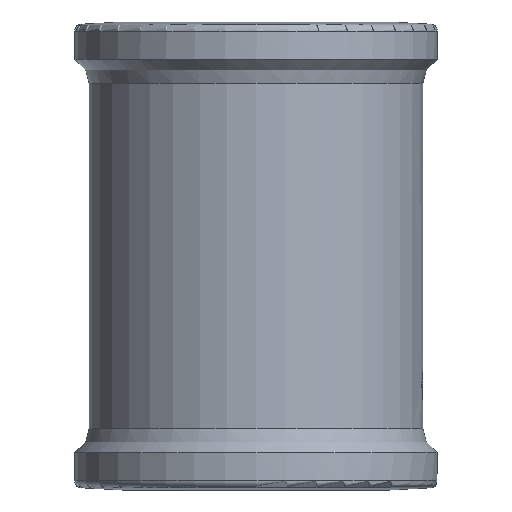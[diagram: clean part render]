
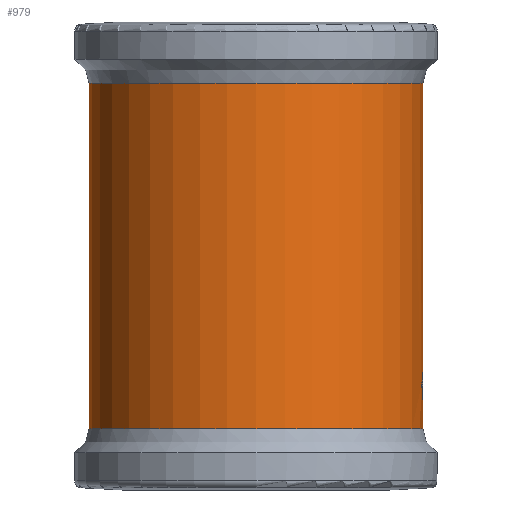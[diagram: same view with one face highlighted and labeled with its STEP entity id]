
A CAD part, left-side view. The second image highlights one B-rep face of the part: STEP entity #979.
In plain terms, the highlighted cylindrical face has radius 24.25 mm (diameter 48.5 mm), a partial arc.
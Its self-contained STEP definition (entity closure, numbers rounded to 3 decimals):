
#212=CARTESIAN_POINT('',(-3.211,-24.036,-18.791));
#213=VERTEX_POINT('',#212);
#214=CARTESIAN_POINT('',(-0.062,-24.25,-15.292));
#215=VERTEX_POINT('',#214);
#216=CARTESIAN_POINT('',(0.0,0.0,-15.223));
#217=DIRECTION('',(-0.743,0.0,0.669));
#218=DIRECTION('',(-0.669,0.0,-0.743));
#219=AXIS2_PLACEMENT_3D('',#216,#217,#218);
#220=ELLIPSE('',#219,36.25,24.25);
#221=EDGE_CURVE('',#213,#215,#220,.T.);
#244=CARTESIAN_POINT('',(3.086,-24.053,-18.791));
#245=VERTEX_POINT('',#244);
#246=CARTESIAN_POINT('',(0.0,0.0,-15.362));
#247=DIRECTION('',(0.743,0.0,0.669));
#248=DIRECTION('',(-0.669,0.0,0.743));
#249=AXIS2_PLACEMENT_3D('',#246,#247,#248);
#250=ELLIPSE('',#249,36.25,24.25);
#251=EDGE_CURVE('',#215,#245,#250,.T.);
#269=CARTESIAN_POINT('',(-0.062,-24.25,-22.29));
#270=VERTEX_POINT('',#269);
#271=CARTESIAN_POINT('',(0.0,0.0,-22.359));
#272=DIRECTION('',(-0.743,0.0,-0.669));
#273=DIRECTION('',(-0.669,0.0,0.743));
#274=AXIS2_PLACEMENT_3D('',#271,#272,#273);
#275=ELLIPSE('',#274,36.25,24.25);
#276=EDGE_CURVE('',#270,#213,#275,.T.);
#294=CARTESIAN_POINT('',(0.0,0.0,-22.221));
#295=DIRECTION('',(0.743,0.0,-0.669));
#296=DIRECTION('',(-0.669,0.0,-0.743));
#297=AXIS2_PLACEMENT_3D('',#294,#295,#296);
#298=ELLIPSE('',#297,36.25,24.25);
#299=EDGE_CURVE('',#245,#270,#298,.T.);
#850=CARTESIAN_POINT('',(0.0,0.0,0.0));
#851=DIRECTION('',(0.0,0.0,1.0));
#852=DIRECTION('',(-1.0,0.0,0.0));
#853=AXIS2_PLACEMENT_3D('',#850,#851,#852);
#854=CYLINDRICAL_SURFACE('',#853,24.25);
#855=CARTESIAN_POINT('',(23.729,5.0,25.08));
#856=VERTEX_POINT('',#855);
#857=CARTESIAN_POINT('',(23.729,-5.0,25.08));
#858=VERTEX_POINT('',#857);
#859=CARTESIAN_POINT('',(0.0,0.0,25.08));
#860=DIRECTION('',(0.0,0.0,1.0));
#861=DIRECTION('',(1.0,0.0,0.0));
#862=AXIS2_PLACEMENT_3D('',#859,#860,#861);
#863=CIRCLE('',#862,24.25);
#864=EDGE_CURVE('',#856,#858,#863,.T.);
#865=ORIENTED_EDGE('',*,*,#864,.F.);
#866=CARTESIAN_POINT('',(23.729,5.,14.767));
#867=VERTEX_POINT('',#866);
#868=CARTESIAN_POINT('',(23.729,5.0,25.08));
#869=DIRECTION('',(0.,0.,-1.0));
#870=VECTOR('',#869,10.313);
#871=LINE('',#868,#870);
#872=EDGE_CURVE('',#856,#867,#871,.T.);
#873=ORIENTED_EDGE('',*,*,#872,.T.);
#874=CARTESIAN_POINT('',(23.729,5.,-14.767));
#875=VERTEX_POINT('',#874);
#876=CARTESIAN_POINT('',(23.729,5.,-14.767));
#877=CARTESIAN_POINT('',(23.568,5.766,-14.44));
#878=CARTESIAN_POINT('',(23.178,7.241,-13.634));
#879=CARTESIAN_POINT('',(22.473,9.181,-12.067));
#880=CARTESIAN_POINT('',(21.83,10.586,-10.466));
#881=CARTESIAN_POINT('',(21.327,11.55,-9.043));
#882=CARTESIAN_POINT('',(20.848,12.402,-7.539));
#883=CARTESIAN_POINT('',(20.415,13.095,-5.884));
#884=CARTESIAN_POINT('',(20.085,13.591,-4.127));
#885=CARTESIAN_POINT('',(19.92,13.83,-2.927));
#886=CARTESIAN_POINT('',(19.764,14.053,-1.24));
#887=CARTESIAN_POINT('',(19.728,14.102,0.634));
#888=CARTESIAN_POINT('',(19.869,13.904,2.489));
#889=CARTESIAN_POINT('',(20.024,13.679,3.694));
#890=CARTESIAN_POINT('',(20.313,13.252,5.468));
#891=CARTESIAN_POINT('',(20.876,12.375,7.719));
#892=CARTESIAN_POINT('',(21.704,10.861,10.152));
#893=CARTESIAN_POINT('',(22.476,9.174,12.074));
#894=CARTESIAN_POINT('',(23.181,7.23,13.64));
#895=CARTESIAN_POINT('',(23.568,5.763,14.441));
#896=CARTESIAN_POINT('',(23.729,5.,14.767));
#897=B_SPLINE_CURVE_WITH_KNOTS('',3,(#876,#877,#878,#879,#880,#881,#882,#883,#884,#885,#886,#887,#888,#889,#890,#891,#892,#893,#894,#895,#896),.UNSPECIFIED.,.F.,.U.,(4,1,1,1,1,1,1,1,1,1,1,1,1,1,1,1,1,1,4),(-5.47,-5.252,-5.035,-4.817,-4.708,-4.599,-4.381,-4.272,-4.164,-4.091,-3.873,-3.728,-3.656,-3.583,-3.293,-3.075,-2.857,-2.64,-2.422),.UNSPECIFIED.);
#898=EDGE_CURVE('',#875,#867,#897,.T.);
#899=ORIENTED_EDGE('',*,*,#898,.F.);
#900=CARTESIAN_POINT('',(23.729,5.0,-25.08));
#901=VERTEX_POINT('',#900);
#902=CARTESIAN_POINT('',(23.729,5.,-14.767));
#903=DIRECTION('',(0.0,0.0,-1.0));
#904=VECTOR('',#903,10.313);
#905=LINE('',#902,#904);
#906=EDGE_CURVE('',#875,#901,#905,.T.);
#907=ORIENTED_EDGE('',*,*,#906,.T.);
#908=CARTESIAN_POINT('',(23.729,-5.0,-25.08));
#909=VERTEX_POINT('',#908);
#910=CARTESIAN_POINT('',(0.0,0.0,-25.08));
#911=DIRECTION('',(0.0,0.0,-1.0));
#912=DIRECTION('',(-1.0,0.0,0.0));
#913=AXIS2_PLACEMENT_3D('',#910,#911,#912);
#914=CIRCLE('',#913,24.25);
#915=EDGE_CURVE('',#909,#901,#914,.T.);
#916=ORIENTED_EDGE('',*,*,#915,.F.);
#917=CARTESIAN_POINT('',(23.729,-5.,-14.767));
#918=VERTEX_POINT('',#917);
#919=CARTESIAN_POINT('',(23.729,-5.0,-25.08));
#920=DIRECTION('',(0.0,0.0,1.0));
#921=VECTOR('',#920,10.313);
#922=LINE('',#919,#921);
#923=EDGE_CURVE('',#909,#918,#922,.T.);
#924=ORIENTED_EDGE('',*,*,#923,.T.);
#925=CARTESIAN_POINT('',(19.758,-14.061,0.0));
#926=VERTEX_POINT('',#925);
#927=CARTESIAN_POINT('',(19.758,-14.061,0.0));
#928=CARTESIAN_POINT('',(19.758,-14.061,-0.466));
#929=CARTESIAN_POINT('',(19.781,-14.028,-1.281));
#930=CARTESIAN_POINT('',(19.852,-13.928,-2.207));
#931=CARTESIAN_POINT('',(19.995,-13.722,-3.584));
#932=CARTESIAN_POINT('',(20.308,-13.266,-5.47));
#933=CARTESIAN_POINT('',(20.848,-12.403,-7.539));
#934=CARTESIAN_POINT('',(21.332,-11.542,-9.056));
#935=CARTESIAN_POINT('',(21.831,-10.583,-10.469));
#936=CARTESIAN_POINT('',(22.378,-9.391,-11.829));
#937=CARTESIAN_POINT('',(22.858,-8.12,-12.923));
#938=CARTESIAN_POINT('',(23.191,-7.109,-13.649));
#939=CARTESIAN_POINT('',(23.471,-6.131,-14.241));
#940=CARTESIAN_POINT('',(23.648,-5.382,-14.604));
#941=CARTESIAN_POINT('',(23.729,-5.,-14.767));
#942=B_SPLINE_CURVE_WITH_KNOTS('',3,(#927,#928,#929,#930,#931,#932,#933,#934,#935,#936,#937,#938,#939,#940,#941),.UNSPECIFIED.,.F.,.U.,(4,1,1,1,1,1,1,1,1,1,1,1,4),(-7.894,-7.785,-7.703,-7.676,-7.458,-7.24,-7.131,-7.022,-6.804,-6.668,-6.586,-6.477,-6.368),.UNSPECIFIED.);
#943=EDGE_CURVE('',#926,#918,#942,.T.);
#944=ORIENTED_EDGE('',*,*,#943,.F.);
#945=CARTESIAN_POINT('',(23.729,-5.,14.767));
#946=VERTEX_POINT('',#945);
#947=CARTESIAN_POINT('',(23.729,-5.,14.767));
#948=CARTESIAN_POINT('',(23.568,-5.766,14.44));
#949=CARTESIAN_POINT('',(23.275,-6.872,13.836));
#950=CARTESIAN_POINT('',(22.827,-8.206,12.853));
#951=CARTESIAN_POINT('',(22.466,-9.148,12.024));
#952=CARTESIAN_POINT('',(22.088,-10.023,11.107));
#953=CARTESIAN_POINT('',(21.705,-10.826,10.112));
#954=CARTESIAN_POINT('',(21.329,-11.548,9.047));
#955=CARTESIAN_POINT('',(20.969,-12.187,7.919));
#956=CARTESIAN_POINT('',(20.632,-12.747,6.714));
#957=CARTESIAN_POINT('',(20.334,-13.217,5.448));
#958=CARTESIAN_POINT('',(20.086,-13.589,4.133));
#959=CARTESIAN_POINT('',(19.838,-13.949,2.335));
#960=CARTESIAN_POINT('',(19.758,-14.061,0.931));
#961=CARTESIAN_POINT('',(19.758,-14.061,0.));
#962=B_SPLINE_CURVE_WITH_KNOTS('',3,(#947,#948,#949,#950,#951,#952,#953,#954,#955,#956,#957,#958,#959,#960,#961),.UNSPECIFIED.,.F.,.U.,(4,1,1,1,1,1,1,1,1,1,1,1,4),(-1.523,-1.306,-1.197,-1.088,-0.979,-0.871,-0.762,-0.653,-0.544,-0.435,-0.326,-0.218,0.),.UNSPECIFIED.);
#963=EDGE_CURVE('',#946,#926,#962,.T.);
#964=ORIENTED_EDGE('',*,*,#963,.F.);
#965=CARTESIAN_POINT('',(23.729,-5.,14.767));
#966=DIRECTION('',(0.,0.,1.0));
#967=VECTOR('',#966,10.313);
#968=LINE('',#965,#967);
#969=EDGE_CURVE('',#946,#858,#968,.T.);
#970=ORIENTED_EDGE('',*,*,#969,.T.);
#971=EDGE_LOOP('',(#865,#873,#899,#907,#916,#924,#944,#964,#970));
#972=FACE_OUTER_BOUND('',#971,.T.);
#973=ORIENTED_EDGE('',*,*,#221,.T.);
#974=ORIENTED_EDGE('',*,*,#251,.T.);
#975=ORIENTED_EDGE('',*,*,#299,.T.);
#976=ORIENTED_EDGE('',*,*,#276,.T.);
#977=EDGE_LOOP('',(#973,#974,#975,#976));
#978=FACE_BOUND('',#977,.T.);
#979=ADVANCED_FACE('',(#972,#978),#854,.T.);
